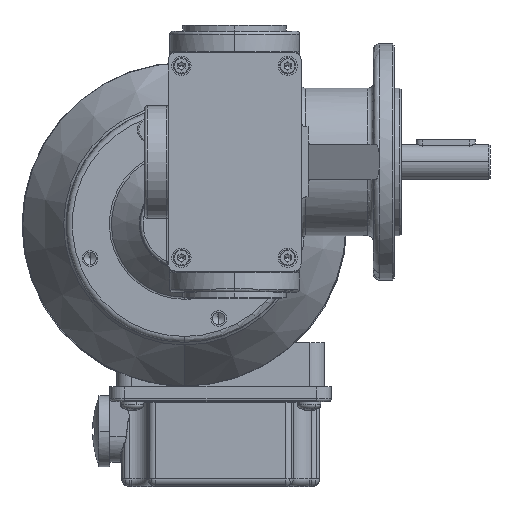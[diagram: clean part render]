
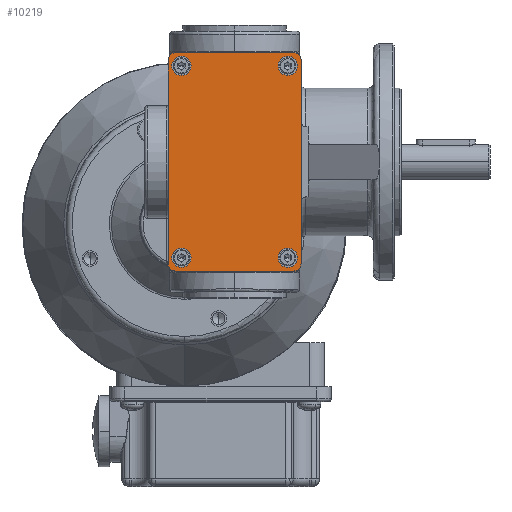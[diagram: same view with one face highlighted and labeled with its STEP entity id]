
A CAD part, top view. The second image highlights one B-rep face of the part: STEP entity #10219.
In plain terms, the highlighted planar face has unit normal (0, 0, 1) as drawn and (0, 1, 0) by its records, which use the part's own axes.
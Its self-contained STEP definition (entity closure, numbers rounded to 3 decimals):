
#200 = CARTESIAN_POINT ( 'NONE',  ( -32.5, 8., 18. ) ) ;
#588 = EDGE_CURVE ( 'NONE', #5438, #20541, #3067, .T. ) ;
#800 = CARTESIAN_POINT ( 'NONE',  ( 37., 8., -20. ) ) ;
#1139 = DIRECTION ( 'NONE',  ( 0., 0., -1. ) ) ;
#1250 = CARTESIAN_POINT ( 'NONE',  ( -32.5, 8., 14.75 ) ) ;
#1552 = EDGE_CURVE ( 'NONE', #20541, #14053, #25723, .T. ) ;
#1856 = DIRECTION ( 'NONE',  ( 0., 0., 1. ) ) ;
#2121 = AXIS2_PLACEMENT_3D ( 'NONE', #13251, #25507, #25073 ) ;
#2145 = CIRCLE ( 'NONE', #3069, 3.25 ) ;
#2503 = VERTEX_POINT ( 'NONE', #24743 ) ;
#3067 = CIRCLE ( 'NONE', #2121, 2.5 ) ;
#3069 = AXIS2_PLACEMENT_3D ( 'NONE', #17786, #26793, #6660 ) ;
#3144 = EDGE_LOOP ( 'NONE', ( #5829, #25846 ) ) ;
#3488 = CIRCLE ( 'NONE', #11432, 3.25 ) ;
#3778 = DIRECTION ( 'NONE',  ( 0., 0., 1. ) ) ;
#3801 = ORIENTED_EDGE ( 'NONE', *, *, #13403, .T. ) ;
#3953 = ORIENTED_EDGE ( 'NONE', *, *, #14601, .F. ) ;
#4729 = CARTESIAN_POINT ( 'NONE',  ( 32.5, 8., -14.75 ) ) ;
#5101 = CARTESIAN_POINT ( 'NONE',  ( 32.5, 8., -18. ) ) ;
#5143 = EDGE_CURVE ( 'NONE', #20877, #16387, #2145, .T. ) ;
#5253 = EDGE_LOOP ( 'NONE', ( #19517, #3953 ) ) ;
#5257 = AXIS2_PLACEMENT_3D ( 'NONE', #10930, #28724, #15456 ) ;
#5373 = CIRCLE ( 'NONE', #24934, 3.25 ) ;
#5438 = VERTEX_POINT ( 'NONE', #800 ) ;
#5829 = ORIENTED_EDGE ( 'NONE', *, *, #12285, .F. ) ;
#6006 = CARTESIAN_POINT ( 'NONE',  ( -37., 8., -22.5 ) ) ;
#6201 = CARTESIAN_POINT ( 'NONE',  ( 37., 8., 20. ) ) ;
#6411 = FACE_OUTER_BOUND ( 'NONE', #25644, .T. ) ;
#6430 = VERTEX_POINT ( 'NONE', #4729 ) ;
#6660 = DIRECTION ( 'NONE',  ( 0., 0., 1. ) ) ;
#7465 = DIRECTION ( 'NONE',  ( 0., 1., 0. ) ) ;
#7743 = DIRECTION ( 'NONE',  ( 0., 0., 1. ) ) ;
#7813 = CARTESIAN_POINT ( 'NONE',  ( -32.5, 8., 21.25 ) ) ;
#7876 = DIRECTION ( 'NONE',  ( 0., 1., 0. ) ) ;
#8189 = DIRECTION ( 'NONE',  ( 0., 1., 0. ) ) ;
#8591 = DIRECTION ( 'NONE',  ( 0., 0., 1. ) ) ;
#9500 = CIRCLE ( 'NONE', #13211, 2.5 ) ;
#9572 = DIRECTION ( 'NONE',  ( 0., 0., 1. ) ) ;
#9578 = ORIENTED_EDGE ( 'NONE', *, *, #16078, .T. ) ;
#9963 = DIRECTION ( 'NONE',  ( 0., 0., 1. ) ) ;
#10219 = ADVANCED_FACE ( 'NONE', ( #17244, #28307, #26123, #12981, #6411 ), #10796, .T. ) ;
#10232 = DIRECTION ( 'NONE',  ( 0., 1., 0. ) ) ;
#10501 = DIRECTION ( 'NONE',  ( 0., 1., 0. ) ) ;
#10563 = VERTEX_POINT ( 'NONE', #10768 ) ;
#10662 = LINE ( 'NONE', #19569, #25486 ) ;
#10768 = CARTESIAN_POINT ( 'NONE',  ( -37., 8., 20. ) ) ;
#10788 = DIRECTION ( 'NONE',  ( 0., 0., 1. ) ) ;
#10796 = PLANE ( 'NONE',  #5257 ) ;
#10930 = CARTESIAN_POINT ( 'NONE',  ( 0., 8., 0. ) ) ;
#11427 = AXIS2_PLACEMENT_3D ( 'NONE', #25587, #21059, #9963 ) ;
#11432 = AXIS2_PLACEMENT_3D ( 'NONE', #5101, #7465, #7743 ) ;
#12004 = AXIS2_PLACEMENT_3D ( 'NONE', #17411, #12723, #12874 ) ;
#12109 = ORIENTED_EDGE ( 'NONE', *, *, #12307, .F. ) ;
#12110 = VERTEX_POINT ( 'NONE', #21243 ) ;
#12128 = CARTESIAN_POINT ( 'NONE',  ( -37., 8., 22.5 ) ) ;
#12285 = EDGE_CURVE ( 'NONE', #6430, #14804, #13308, .T. ) ;
#12307 = EDGE_CURVE ( 'NONE', #2503, #18494, #24035, .T. ) ;
#12603 = DIRECTION ( 'NONE',  ( 0., 0., 1. ) ) ;
#12723 = DIRECTION ( 'NONE',  ( 0., 1., 0. ) ) ;
#12874 = DIRECTION ( 'NONE',  ( 0., 0., 1. ) ) ;
#12981 = FACE_BOUND ( 'NONE', #5253, .T. ) ;
#13211 = AXIS2_PLACEMENT_3D ( 'NONE', #26300, #17157, #12603 ) ;
#13251 = CARTESIAN_POINT ( 'NONE',  ( 34.5, 8., -20. ) ) ;
#13308 = CIRCLE ( 'NONE', #20781, 3.25 ) ;
#13393 = EDGE_CURVE ( 'NONE', #14804, #6430, #3488, .T. ) ;
#13403 = EDGE_CURVE ( 'NONE', #12110, #25649, #25248, .T. ) ;
#14053 = VERTEX_POINT ( 'NONE', #26923 ) ;
#14212 = CARTESIAN_POINT ( 'NONE',  ( -32.5, 8., -14.75 ) ) ;
#14601 = EDGE_CURVE ( 'NONE', #16387, #20877, #22608, .T. ) ;
#14737 = AXIS2_PLACEMENT_3D ( 'NONE', #26140, #8189, #3778 ) ;
#14804 = VERTEX_POINT ( 'NONE', #27546 ) ;
#15169 = AXIS2_PLACEMENT_3D ( 'NONE', #17503, #10501, #10788 ) ;
#15456 = DIRECTION ( 'NONE',  ( 0., 0., 1. ) ) ;
#16078 = EDGE_CURVE ( 'NONE', #16190, #10563, #10662, .T. ) ;
#16190 = VERTEX_POINT ( 'NONE', #24768 ) ;
#16387 = VERTEX_POINT ( 'NONE', #16776 ) ;
#16760 = ORIENTED_EDGE ( 'NONE', *, *, #19448, .F. ) ;
#16776 = CARTESIAN_POINT ( 'NONE',  ( -32.5, 8., -21.25 ) ) ;
#16915 = EDGE_LOOP ( 'NONE', ( #12109, #21618 ) ) ;
#17046 = VECTOR ( 'NONE', #27879, 1000. ) ;
#17157 = DIRECTION ( 'NONE',  ( 0., 1., 0. ) ) ;
#17238 = CARTESIAN_POINT ( 'NONE',  ( 32.5, 8., -18. ) ) ;
#17244 = FACE_BOUND ( 'NONE', #3144, .T. ) ;
#17248 = AXIS2_PLACEMENT_3D ( 'NONE', #17615, #17462, #17761 ) ;
#17411 = CARTESIAN_POINT ( 'NONE',  ( 34.5, 8., 20. ) ) ;
#17462 = DIRECTION ( 'NONE',  ( 0., 1., 0. ) ) ;
#17503 = CARTESIAN_POINT ( 'NONE',  ( 32.5, 8., 18. ) ) ;
#17615 = CARTESIAN_POINT ( 'NONE',  ( -34.5, 8., 20. ) ) ;
#17761 = DIRECTION ( 'NONE',  ( 0., 0., 1. ) ) ;
#17786 = CARTESIAN_POINT ( 'NONE',  ( -32.5, 8., -18. ) ) ;
#18494 = VERTEX_POINT ( 'NONE', #26025 ) ;
#18830 = CARTESIAN_POINT ( 'NONE',  ( 37., 8., -22.5 ) ) ;
#19296 = DIRECTION ( 'NONE',  ( -1., 0., 0. ) ) ;
#19397 = ORIENTED_EDGE ( 'NONE', *, *, #23221, .T. ) ;
#19448 = EDGE_CURVE ( 'NONE', #24398, #27489, #5373, .T. ) ;
#19517 = ORIENTED_EDGE ( 'NONE', *, *, #5143, .F. ) ;
#19569 = CARTESIAN_POINT ( 'NONE',  ( -37., 8., -22.5 ) ) ;
#20392 = CIRCLE ( 'NONE', #12004, 2.5 ) ;
#20541 = VERTEX_POINT ( 'NONE', #24419 ) ;
#20781 = AXIS2_PLACEMENT_3D ( 'NONE', #17238, #10232, #8591 ) ;
#20877 = VERTEX_POINT ( 'NONE', #14212 ) ;
#21032 = EDGE_CURVE ( 'NONE', #25649, #23142, #20392, .T. ) ;
#21059 = DIRECTION ( 'NONE',  ( 0., 1., 0. ) ) ;
#21243 = CARTESIAN_POINT ( 'NONE',  ( -34.5, 8., 22.5 ) ) ;
#21469 = CARTESIAN_POINT ( 'NONE',  ( 34.5, 8., 22.5 ) ) ;
#21568 = EDGE_CURVE ( 'NONE', #18494, #2503, #23209, .T. ) ;
#21618 = ORIENTED_EDGE ( 'NONE', *, *, #21568, .F. ) ;
#22321 = ORIENTED_EDGE ( 'NONE', *, *, #21032, .T. ) ;
#22608 = CIRCLE ( 'NONE', #11427, 3.25 ) ;
#22640 = ORIENTED_EDGE ( 'NONE', *, *, #26401, .T. ) ;
#22709 = AXIS2_PLACEMENT_3D ( 'NONE', #23467, #7876, #22893 ) ;
#22893 = DIRECTION ( 'NONE',  ( 0., 0., 1. ) ) ;
#23040 = EDGE_LOOP ( 'NONE', ( #16760, #28392 ) ) ;
#23142 = VERTEX_POINT ( 'NONE', #6201 ) ;
#23209 = CIRCLE ( 'NONE', #22709, 3.25 ) ;
#23221 = EDGE_CURVE ( 'NONE', #10563, #12110, #23752, .T. ) ;
#23467 = CARTESIAN_POINT ( 'NONE',  ( 32.5, 8., 18. ) ) ;
#23629 = ORIENTED_EDGE ( 'NONE', *, *, #588, .T. ) ;
#23752 = CIRCLE ( 'NONE', #17248, 2.5 ) ;
#23904 = EDGE_CURVE ( 'NONE', #23142, #5438, #25247, .T. ) ;
#24019 = CIRCLE ( 'NONE', #14737, 3.25 ) ;
#24035 = CIRCLE ( 'NONE', #15169, 3.25 ) ;
#24398 = VERTEX_POINT ( 'NONE', #7813 ) ;
#24419 = CARTESIAN_POINT ( 'NONE',  ( 34.5, 8., -22.5 ) ) ;
#24557 = VECTOR ( 'NONE', #19296, 1000. ) ;
#24740 = DIRECTION ( 'NONE',  ( 0., 1., 0. ) ) ;
#24743 = CARTESIAN_POINT ( 'NONE',  ( 32.5, 8., 21.25 ) ) ;
#24768 = CARTESIAN_POINT ( 'NONE',  ( -37., 8., -20. ) ) ;
#24934 = AXIS2_PLACEMENT_3D ( 'NONE', #200, #24740, #9572 ) ;
#25073 = DIRECTION ( 'NONE',  ( 0., 0., 1. ) ) ;
#25247 = LINE ( 'NONE', #18830, #25428 ) ;
#25248 = LINE ( 'NONE', #12128, #17046 ) ;
#25428 = VECTOR ( 'NONE', #1139, 1000. ) ;
#25486 = VECTOR ( 'NONE', #1856, 1000. ) ;
#25507 = DIRECTION ( 'NONE',  ( 0., 1., 0. ) ) ;
#25587 = CARTESIAN_POINT ( 'NONE',  ( -32.5, 8., -18. ) ) ;
#25632 = ORIENTED_EDGE ( 'NONE', *, *, #1552, .T. ) ;
#25644 = EDGE_LOOP ( 'NONE', ( #27530, #23629, #25632, #22640, #9578, #19397, #3801, #22321 ) ) ;
#25649 = VERTEX_POINT ( 'NONE', #21469 ) ;
#25723 = LINE ( 'NONE', #6006, #24557 ) ;
#25846 = ORIENTED_EDGE ( 'NONE', *, *, #13393, .F. ) ;
#26025 = CARTESIAN_POINT ( 'NONE',  ( 32.5, 8., 14.75 ) ) ;
#26123 = FACE_BOUND ( 'NONE', #23040, .T. ) ;
#26140 = CARTESIAN_POINT ( 'NONE',  ( -32.5, 8., 18. ) ) ;
#26300 = CARTESIAN_POINT ( 'NONE',  ( -34.5, 8., -20. ) ) ;
#26401 = EDGE_CURVE ( 'NONE', #14053, #16190, #9500, .T. ) ;
#26793 = DIRECTION ( 'NONE',  ( 0., 1., 0. ) ) ;
#26923 = CARTESIAN_POINT ( 'NONE',  ( -34.5, 8., -22.5 ) ) ;
#27489 = VERTEX_POINT ( 'NONE', #1250 ) ;
#27530 = ORIENTED_EDGE ( 'NONE', *, *, #23904, .T. ) ;
#27546 = CARTESIAN_POINT ( 'NONE',  ( 32.5, 8., -21.25 ) ) ;
#27879 = DIRECTION ( 'NONE',  ( 1., 0., 0. ) ) ;
#27894 = EDGE_CURVE ( 'NONE', #27489, #24398, #24019, .T. ) ;
#28307 = FACE_BOUND ( 'NONE', #16915, .T. ) ;
#28392 = ORIENTED_EDGE ( 'NONE', *, *, #27894, .F. ) ;
#28724 = DIRECTION ( 'NONE',  ( 0., 1., 0. ) ) ;
